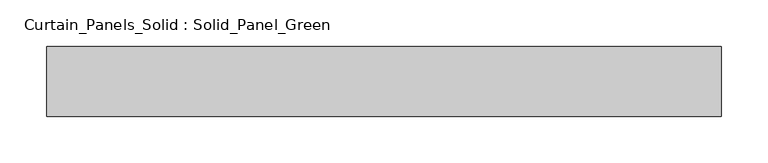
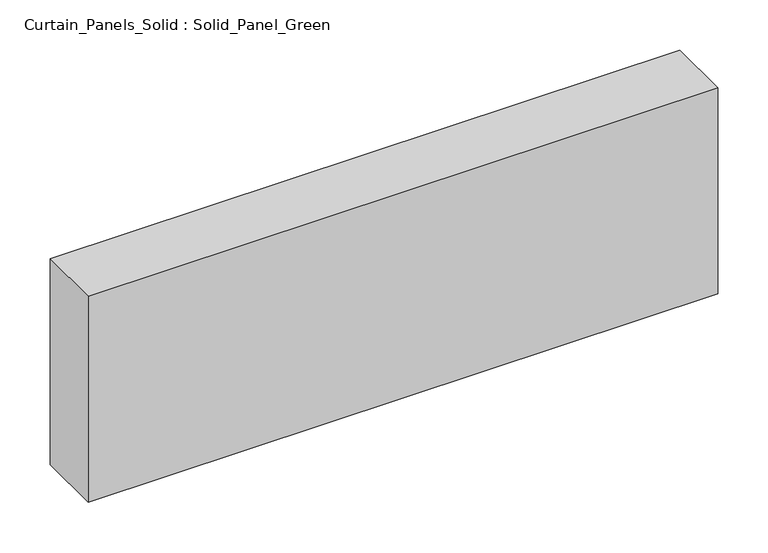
"""IFC4 building model written with IfcOpenShell, lengths in millimetres: plate geometry, Curtain_Panels_Solid : Solid_Panel_Green."""

from ifc_helpers import new_model, si_unit, origin, origin_with_axes, place, context, project, spatial, polyline, outline, extrude, source, transform, mapped, element, save


def curtain_panels_solid_solid_panel_green_5615a796(model_context):
    return source(origin(), model_context, "Body", "SweptSolid", [
        extrude(outline(polyline([(361.2499999, 25.0), (361.2499999, -50.0), (-361.2499999, -50.0), (-361.2499999, 25.0), (361.2499999, 25.0)])), origin_with_axes(), (0.0, 0.0, 1.0), 250.0),
    ])


if __name__ == "__main__":
    model = new_model("IFC4")
    model_context = context("Model", 3, world=origin())
    ifc_project = project(units=[si_unit("LENGTHUNIT", "METRE", prefix="MILLI")], contexts=[model_context])
    site = spatial("IfcSite", under=ifc_project)
    building = spatial("IfcBuilding", under=site)
    placement = place(None, origin())
    curtain_panels_solid_solid_panel_green_shape = curtain_panels_solid_solid_panel_green_5615a796(model_context)
    element("IfcPlate", 1, ObjectType="Curtain_Panels_Solid : Solid_Panel_Green", at=placement, inside=building, context=model_context, shape_type="MappedRepresentation", body=[
        mapped(curtain_panels_solid_solid_panel_green_shape, transform((0.0, 0.0, 0.0), x_axis=(1.0, 0.0, 0.0), y_axis=(0.0, 1.0, 0.0), z_axis=(0.0, 0.0, 1.0))),
    ])
    save(model, "model.ifc")
